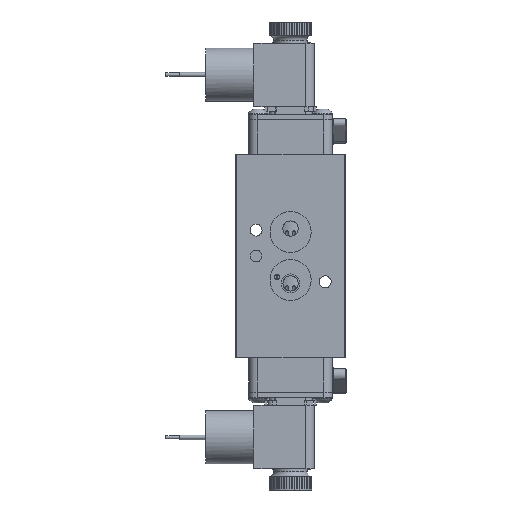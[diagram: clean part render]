
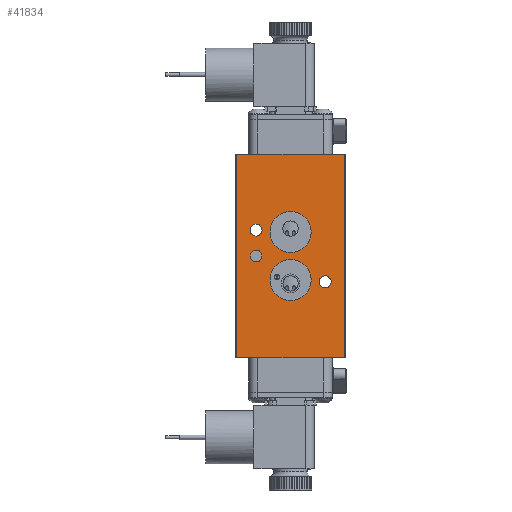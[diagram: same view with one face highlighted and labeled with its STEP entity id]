
A CAD part, front view. The second image highlights one B-rep face of the part: STEP entity #41834.
In plain terms, the highlighted planar face has unit normal (0, -1, 0).
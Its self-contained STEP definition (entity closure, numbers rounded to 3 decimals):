
#625=FACE_BOUND('',#7892,.T.);
#626=FACE_BOUND('',#7893,.T.);
#627=FACE_BOUND('',#7894,.T.);
#628=FACE_BOUND('',#7895,.T.);
#629=FACE_BOUND('',#7896,.T.);
#2983=CIRCLE('',#45751,0.953);
#2985=CIRCLE('',#45755,0.953);
#2988=CIRCLE('',#45761,0.276);
#2989=CIRCLE('',#45763,0.278);
#2990=CIRCLE('',#45765,0.278);
#5370=FACE_OUTER_BOUND('',#7891,.T.);
#7891=EDGE_LOOP('',(#34368,#34369,#34370,#34371));
#7892=EDGE_LOOP('',(#34372));
#7893=EDGE_LOOP('',(#34373));
#7894=EDGE_LOOP('',(#34374));
#7895=EDGE_LOOP('',(#34375));
#7896=EDGE_LOOP('',(#34376));
#10915=LINE('',#71869,#13987);
#10918=LINE('',#71885,#13990);
#10959=LINE('',#72572,#14031);
#10962=LINE('',#72578,#14034);
#13987=VECTOR('',#55819,1.);
#13990=VECTOR('',#55836,1.);
#14031=VECTOR('',#56089,1.);
#14034=VECTOR('',#56098,1.);
#18249=VERTEX_POINT('',#71861);
#18251=VERTEX_POINT('',#71867);
#18255=VERTEX_POINT('',#71881);
#18257=VERTEX_POINT('',#71884);
#18306=VERTEX_POINT('',#72505);
#18308=VERTEX_POINT('',#72512);
#18312=VERTEX_POINT('',#72524);
#18313=VERTEX_POINT('',#72528);
#18314=VERTEX_POINT('',#72532);
#23664=EDGE_CURVE('',#18249,#18251,#10915,.T.);
#23671=EDGE_CURVE('',#18257,#18255,#10918,.T.);
#23759=EDGE_CURVE('',#18306,#18306,#2983,.T.);
#23762=EDGE_CURVE('',#18308,#18308,#2985,.T.);
#23767=EDGE_CURVE('',#18312,#18312,#2988,.T.);
#23770=EDGE_CURVE('',#18313,#18313,#2989,.T.);
#23772=EDGE_CURVE('',#18314,#18314,#2990,.T.);
#23791=EDGE_CURVE('',#18249,#18255,#10959,.T.);
#23794=EDGE_CURVE('',#18257,#18251,#10962,.T.);
#34368=ORIENTED_EDGE('',*,*,#23791,.F.);
#34369=ORIENTED_EDGE('',*,*,#23664,.T.);
#34370=ORIENTED_EDGE('',*,*,#23794,.F.);
#34371=ORIENTED_EDGE('',*,*,#23671,.T.);
#34372=ORIENTED_EDGE('',*,*,#23759,.T.);
#34373=ORIENTED_EDGE('',*,*,#23762,.T.);
#34374=ORIENTED_EDGE('',*,*,#23767,.T.);
#34375=ORIENTED_EDGE('',*,*,#23770,.T.);
#34376=ORIENTED_EDGE('',*,*,#23772,.T.);
#37406=PLANE('',#45790);
#41834=ADVANCED_FACE('',(#5370,#625,#626,#627,#628,#629),#37406,.T.);
#45751=AXIS2_PLACEMENT_3D('',#72506,#56004,#56005);
#45755=AXIS2_PLACEMENT_3D('',#72513,#56013,#56014);
#45761=AXIS2_PLACEMENT_3D('',#72525,#56027,#56028);
#45763=AXIS2_PLACEMENT_3D('',#72530,#56033,#56034);
#45765=AXIS2_PLACEMENT_3D('',#72534,#56038,#56039);
#45790=AXIS2_PLACEMENT_3D('',#72581,#56103,#56104);
#55819=DIRECTION('',(1.,0.,0.));
#55836=DIRECTION('',(-1.,0.,0.));
#56004=DIRECTION('center_axis',(0.,1.,0.));
#56005=DIRECTION('ref_axis',(-1.,0.,0.));
#56013=DIRECTION('center_axis',(0.,1.,0.));
#56014=DIRECTION('ref_axis',(-1.,0.,0.));
#56027=DIRECTION('center_axis',(0.,1.,0.));
#56028=DIRECTION('ref_axis',(1.,0.,0.));
#56033=DIRECTION('center_axis',(0.,1.,0.));
#56034=DIRECTION('ref_axis',(1.,0.,0.));
#56038=DIRECTION('center_axis',(0.,1.,0.));
#56039=DIRECTION('ref_axis',(1.,0.,0.));
#56089=DIRECTION('',(0.,0.,1.));
#56098=DIRECTION('',(0.,0.,-1.));
#56103=DIRECTION('center_axis',(0.,-1.,0.));
#56104=DIRECTION('ref_axis',(0.,0.,-1.));
#71861=CARTESIAN_POINT('',(-2.5,-1.636,-4.71));
#71867=CARTESIAN_POINT('',(2.5,-1.636,-4.71));
#71869=CARTESIAN_POINT('',(-2.54,-1.636,-4.71));
#71881=CARTESIAN_POINT('',(-2.5,-1.636,4.71));
#71884=CARTESIAN_POINT('',(2.5,-1.636,4.71));
#71885=CARTESIAN_POINT('',(-2.54,-1.636,4.71));
#72505=CARTESIAN_POINT('',(0.953,-1.636,1.111));
#72506=CARTESIAN_POINT('Origin',(0.,-1.636,1.111));
#72512=CARTESIAN_POINT('',(0.953,-1.636,-1.111));
#72513=CARTESIAN_POINT('Origin',(0.,-1.636,-1.111));
#72524=CARTESIAN_POINT('',(-1.876,-1.636,-0.001));
#72525=CARTESIAN_POINT('Origin',(-1.6,-1.636,-0.001));
#72528=CARTESIAN_POINT('',(1.322,-1.636,-1.2));
#72530=CARTESIAN_POINT('Origin',(1.6,-1.636,-1.2));
#72532=CARTESIAN_POINT('',(-1.878,-1.636,1.2));
#72534=CARTESIAN_POINT('Origin',(-1.6,-1.636,1.2));
#72572=CARTESIAN_POINT('',(-2.5,-1.636,0.));
#72578=CARTESIAN_POINT('',(2.5,-1.636,0.));
#72581=CARTESIAN_POINT('Origin',(2.54,-1.636,0.));
